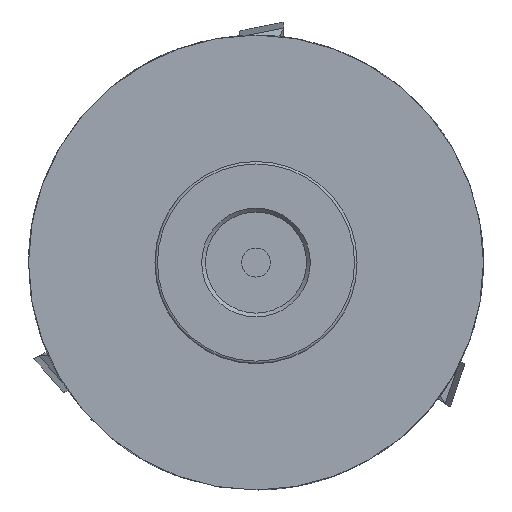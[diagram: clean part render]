
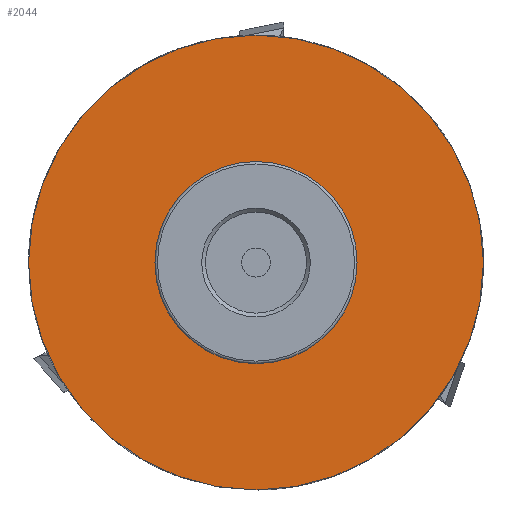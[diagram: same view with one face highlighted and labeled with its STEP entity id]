
A CAD part, front view. The second image highlights one B-rep face of the part: STEP entity #2044.
In plain terms, the highlighted planar face has unit normal (0, -1, 0).
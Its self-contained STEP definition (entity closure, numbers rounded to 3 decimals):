
#75=FACE_BOUND('',#437,.T.);
#170=CIRCLE('',#2228,18.);
#171=CIRCLE('',#2229,18.);
#207=CIRCLE('',#2301,7.75);
#208=CIRCLE('',#2302,7.75);
#318=FACE_OUTER_BOUND('',#436,.T.);
#436=EDGE_LOOP('',(#1597,#1598));
#437=EDGE_LOOP('',(#1599,#1600));
#838=VERTEX_POINT('',#3175);
#839=VERTEX_POINT('',#3176);
#895=VERTEX_POINT('',#3580);
#896=VERTEX_POINT('',#3581);
#1060=EDGE_CURVE('',#838,#839,#170,.T.);
#1061=EDGE_CURVE('',#839,#838,#171,.T.);
#1151=EDGE_CURVE('',#895,#896,#207,.T.);
#1152=EDGE_CURVE('',#896,#895,#208,.T.);
#1597=ORIENTED_EDGE('',*,*,#1060,.T.);
#1598=ORIENTED_EDGE('',*,*,#1061,.T.);
#1599=ORIENTED_EDGE('',*,*,#1151,.F.);
#1600=ORIENTED_EDGE('',*,*,#1152,.F.);
#1969=PLANE('',#2300);
#2044=ADVANCED_FACE('',(#318,#75),#1969,.T.);
#2228=AXIS2_PLACEMENT_3D('',#3177,#2507,#2508);
#2229=AXIS2_PLACEMENT_3D('',#3178,#2509,#2510);
#2300=AXIS2_PLACEMENT_3D('',#3579,#2678,#2679);
#2301=AXIS2_PLACEMENT_3D('',#3582,#2680,#2681);
#2302=AXIS2_PLACEMENT_3D('',#3583,#2682,#2683);
#2507=DIRECTION('center_axis',(0.,-1.,0.));
#2508=DIRECTION('ref_axis',(1.,0.,0.));
#2509=DIRECTION('center_axis',(0.,-1.,0.));
#2510=DIRECTION('ref_axis',(1.,0.,0.));
#2678=DIRECTION('center_axis',(0.,-1.,0.));
#2679=DIRECTION('ref_axis',(0.,0.,-1.));
#2680=DIRECTION('center_axis',(0.,-1.,0.));
#2681=DIRECTION('ref_axis',(1.,0.,0.));
#2682=DIRECTION('center_axis',(0.,-1.,0.));
#2683=DIRECTION('ref_axis',(1.,0.,0.));
#3175=CARTESIAN_POINT('',(18.,49.5,0.));
#3176=CARTESIAN_POINT('',(-18.,49.5,0.));
#3177=CARTESIAN_POINT('Origin',(0.,49.5,0.));
#3178=CARTESIAN_POINT('Origin',(0.,49.5,0.));
#3579=CARTESIAN_POINT('Origin',(7.75,49.5,0.));
#3580=CARTESIAN_POINT('',(7.75,49.5,0.));
#3581=CARTESIAN_POINT('',(-7.75,49.5,0.));
#3582=CARTESIAN_POINT('Origin',(0.,49.5,0.));
#3583=CARTESIAN_POINT('Origin',(0.,49.5,0.));
